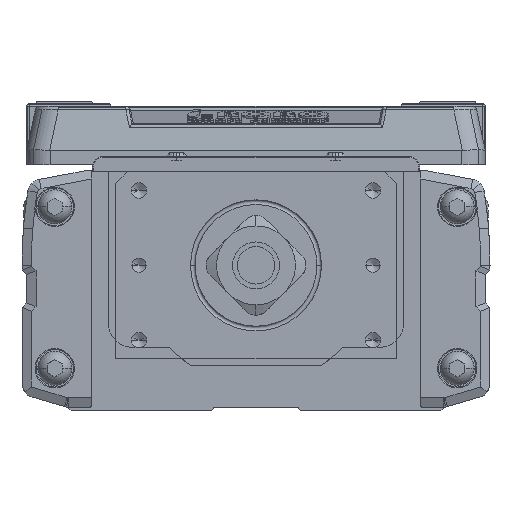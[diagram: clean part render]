
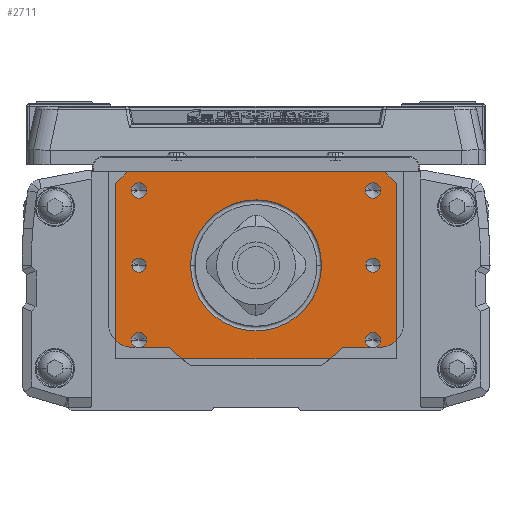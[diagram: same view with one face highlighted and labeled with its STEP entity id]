
A CAD part, left-side view. The second image highlights one B-rep face of the part: STEP entity #2711.
In plain terms, the highlighted planar face has unit normal (-1, 0, 0).
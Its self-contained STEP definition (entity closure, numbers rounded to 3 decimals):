
#2711=ADVANCED_FACE('',(#6899,#6900,#6901,#6902,#6903,#6904,#6905,#6906),#6907,.T.);
#6899=FACE_BOUND('',#12892,.T.);
#6900=FACE_BOUND('',#12893,.T.);
#6901=FACE_BOUND('',#12894,.T.);
#6902=FACE_BOUND('',#12895,.T.);
#6903=FACE_BOUND('',#12896,.T.);
#6904=FACE_BOUND('',#12897,.T.);
#6905=FACE_BOUND('',#12898,.T.);
#6906=FACE_OUTER_BOUND('',#12899,.T.);
#6907=PLANE('',#12900);
#12892=EDGE_LOOP('',(#20859,#20860));
#12893=EDGE_LOOP('',(#20861,#20862));
#12894=EDGE_LOOP('',(#20863,#20864));
#12895=EDGE_LOOP('',(#20865,#20866));
#12896=EDGE_LOOP('',(#20867,#20868));
#12897=EDGE_LOOP('',(#20869,#20870));
#12898=EDGE_LOOP('',(#20871,#20872,#20873));
#12899=EDGE_LOOP('',(#20874,#20875,#20876,#20877,#20878,#20879));
#12900=AXIS2_PLACEMENT_3D('',#20880,#20881,#20882);
#20859=ORIENTED_EDGE('',*,*,#36876,.T.);
#20860=ORIENTED_EDGE('',*,*,#36877,.T.);
#20861=ORIENTED_EDGE('',*,*,#36878,.T.);
#20862=ORIENTED_EDGE('',*,*,#35425,.T.);
#20863=ORIENTED_EDGE('',*,*,#36879,.T.);
#20864=ORIENTED_EDGE('',*,*,#36880,.T.);
#20865=ORIENTED_EDGE('',*,*,#36881,.T.);
#20866=ORIENTED_EDGE('',*,*,#36882,.T.);
#20867=ORIENTED_EDGE('',*,*,#36883,.T.);
#20868=ORIENTED_EDGE('',*,*,#36884,.T.);
#20869=ORIENTED_EDGE('',*,*,#36885,.T.);
#20870=ORIENTED_EDGE('',*,*,#36886,.T.);
#20871=ORIENTED_EDGE('',*,*,#36887,.T.);
#20872=ORIENTED_EDGE('',*,*,#36888,.T.);
#20873=ORIENTED_EDGE('',*,*,#36889,.T.);
#20874=ORIENTED_EDGE('',*,*,#36314,.F.);
#20875=ORIENTED_EDGE('',*,*,#36890,.F.);
#20876=ORIENTED_EDGE('',*,*,#36891,.T.);
#20877=ORIENTED_EDGE('',*,*,#36892,.T.);
#20878=ORIENTED_EDGE('',*,*,#36893,.F.);
#20879=ORIENTED_EDGE('',*,*,#36894,.T.);
#20880=CARTESIAN_POINT('',(-580.,0.,-20.));
#20881=DIRECTION('',(-1.0,0.,0.));
#20882=DIRECTION('',(0.,-1.0,0.));
#35425=EDGE_CURVE('',#42260,#42257,#42261,.T.);
#36314=EDGE_CURVE('',#43860,#43862,#43863,.T.);
#36876=EDGE_CURVE('',#44838,#44839,#44840,.T.);
#36877=EDGE_CURVE('',#44839,#44838,#44841,.T.);
#36878=EDGE_CURVE('',#42257,#42260,#44842,.T.);
#36879=EDGE_CURVE('',#44843,#44844,#44845,.T.);
#36880=EDGE_CURVE('',#44844,#44843,#44846,.T.);
#36881=EDGE_CURVE('',#44847,#44848,#44849,.T.);
#36882=EDGE_CURVE('',#44848,#44847,#44850,.T.);
#36883=EDGE_CURVE('',#44851,#44852,#44853,.T.);
#36884=EDGE_CURVE('',#44852,#44851,#44854,.T.);
#36885=EDGE_CURVE('',#44855,#44856,#44857,.T.);
#36886=EDGE_CURVE('',#44856,#44855,#44858,.T.);
#36887=EDGE_CURVE('',#44859,#44860,#44861,.T.);
#36888=EDGE_CURVE('',#44860,#44862,#44863,.T.);
#36889=EDGE_CURVE('',#44862,#44859,#44864,.T.);
#36890=EDGE_CURVE('',#44865,#43860,#44866,.T.);
#36891=EDGE_CURVE('',#44865,#44867,#44868,.T.);
#36892=EDGE_CURVE('',#44867,#44869,#44870,.T.);
#36893=EDGE_CURVE('',#44871,#44869,#44872,.T.);
#36894=EDGE_CURVE('',#44871,#43862,#44873,.T.);
#42257=VERTEX_POINT('',#52143);
#42260=VERTEX_POINT('',#52147);
#42261=CIRCLE('',#52148,1.5);
#43860=VERTEX_POINT('',#54347);
#43862=VERTEX_POINT('',#54350);
#43863=LINE('',#54351,#54352);
#44838=VERTEX_POINT('',#55681);
#44839=VERTEX_POINT('',#55682);
#44840=CIRCLE('',#55683,1.5);
#44841=CIRCLE('',#55684,1.5);
#44842=CIRCLE('',#55685,1.5);
#44843=VERTEX_POINT('',#55686);
#44844=VERTEX_POINT('',#55687);
#44845=CIRCLE('',#55688,1.65);
#44846=CIRCLE('',#55689,1.65);
#44847=VERTEX_POINT('',#55690);
#44848=VERTEX_POINT('',#55691);
#44849=CIRCLE('',#55692,1.65);
#44850=CIRCLE('',#55693,1.65);
#44851=VERTEX_POINT('',#55694);
#44852=VERTEX_POINT('',#55695);
#44853=CIRCLE('',#55696,1.65);
#44854=CIRCLE('',#55697,1.65);
#44855=VERTEX_POINT('',#55698);
#44856=VERTEX_POINT('',#55699);
#44857=CIRCLE('',#55700,1.65);
#44858=CIRCLE('',#55701,1.65);
#44859=VERTEX_POINT('',#55702);
#44860=VERTEX_POINT('',#55703);
#44861=CIRCLE('',#55704,14.0);
#44862=VERTEX_POINT('',#55705);
#44863=CIRCLE('',#55706,14.0);
#44864=CIRCLE('',#55707,14.0);
#44865=VERTEX_POINT('',#55708);
#44866=LINE('',#55709,#55710);
#44867=VERTEX_POINT('',#55711);
#44868=LINE('',#55712,#55713);
#44869=VERTEX_POINT('',#55714);
#44870=LINE('',#55715,#55716);
#44871=VERTEX_POINT('',#55717);
#44872=LINE('',#55718,#55719);
#44873=LINE('',#55720,#55721);
#52143=CARTESIAN_POINT('',(-580.,26.5,0.));
#52147=CARTESIAN_POINT('',(-580.,23.5,0.));
#52148=AXIS2_PLACEMENT_3D('',#65624,#65625,#65626);
#54347=CARTESIAN_POINT('',(-580.,30.,17.5));
#54350=CARTESIAN_POINT('',(-580.,27.5,20.));
#54351=CARTESIAN_POINT('',(-580.,31.25,16.25));
#54352=VECTOR('',#66899,10.);
#55681=CARTESIAN_POINT('',(-580.,-26.5,0.));
#55682=CARTESIAN_POINT('',(-580.,-23.5,0.));
#55683=AXIS2_PLACEMENT_3D('',#67739,#67740,#67741);
#55684=AXIS2_PLACEMENT_3D('',#67742,#67743,#67744);
#55685=AXIS2_PLACEMENT_3D('',#67745,#67746,#67747);
#55686=CARTESIAN_POINT('',(-580.,-26.65,-16.));
#55687=CARTESIAN_POINT('',(-580.,-23.35,-16.));
#55688=AXIS2_PLACEMENT_3D('',#67748,#67749,#67750);
#55689=AXIS2_PLACEMENT_3D('',#67751,#67752,#67753);
#55690=CARTESIAN_POINT('',(-580.,26.65,-16.));
#55691=CARTESIAN_POINT('',(-580.,23.35,-16.));
#55692=AXIS2_PLACEMENT_3D('',#67754,#67755,#67756);
#55693=AXIS2_PLACEMENT_3D('',#67757,#67758,#67759);
#55694=CARTESIAN_POINT('',(-580.,26.65,16.));
#55695=CARTESIAN_POINT('',(-580.,23.35,16.));
#55696=AXIS2_PLACEMENT_3D('',#67760,#67761,#67762);
#55697=AXIS2_PLACEMENT_3D('',#67763,#67764,#67765);
#55698=CARTESIAN_POINT('',(-580.,-26.65,16.));
#55699=CARTESIAN_POINT('',(-580.,-23.35,16.));
#55700=AXIS2_PLACEMENT_3D('',#67766,#67767,#67768);
#55701=AXIS2_PLACEMENT_3D('',#67769,#67770,#67771);
#55702=CARTESIAN_POINT('',(-580.,0.,-14.));
#55703=CARTESIAN_POINT('',(-580.,14.,0.));
#55704=AXIS2_PLACEMENT_3D('',#67772,#67773,#67774);
#55705=CARTESIAN_POINT('',(-580.,-14.,0.));
#55706=AXIS2_PLACEMENT_3D('',#67775,#67776,#67777);
#55707=AXIS2_PLACEMENT_3D('',#67778,#67779,#67780);
#55708=CARTESIAN_POINT('',(-580.,30.,-20.));
#55709=CARTESIAN_POINT('',(-580.,30.,-20.));
#55710=VECTOR('',#67781,10.0);
#55711=CARTESIAN_POINT('',(-580.,-30.,-20.));
#55712=CARTESIAN_POINT('',(-580.,30.,-20.));
#55713=VECTOR('',#67782,10.0);
#55714=CARTESIAN_POINT('',(-580.,-30.,17.5));
#55715=CARTESIAN_POINT('',(-580.,-30.,-20.));
#55716=VECTOR('',#67783,10.0);
#55717=CARTESIAN_POINT('',(-580.,-27.5,20.));
#55718=CARTESIAN_POINT('',(-580.,-31.25,16.25));
#55719=VECTOR('',#67784,10.);
#55720=CARTESIAN_POINT('',(-580.,30.,20.));
#55721=VECTOR('',#67785,10.0);
#65624=CARTESIAN_POINT('',(-580.,25.,0.));
#65625=DIRECTION('',(1.0,0.,0.));
#65626=DIRECTION('',(0.,1.0,0.));
#66899=DIRECTION('',(0.,-0.707,0.707));
#67739=CARTESIAN_POINT('',(-580.,-25.,0.));
#67740=DIRECTION('',(1.0,0.,0.));
#67741=DIRECTION('',(0.,-1.0,0.));
#67742=CARTESIAN_POINT('',(-580.,-25.,0.));
#67743=DIRECTION('',(1.0,0.,0.));
#67744=DIRECTION('',(0.,-1.0,0.));
#67745=CARTESIAN_POINT('',(-580.,25.,0.));
#67746=DIRECTION('',(1.0,0.,0.));
#67747=DIRECTION('',(0.,1.0,0.));
#67748=CARTESIAN_POINT('',(-580.,-25.,-16.));
#67749=DIRECTION('',(1.0,0.,0.));
#67750=DIRECTION('',(0.,-1.0,0.));
#67751=CARTESIAN_POINT('',(-580.,-25.,-16.));
#67752=DIRECTION('',(1.0,0.,0.));
#67753=DIRECTION('',(0.,-1.0,0.));
#67754=CARTESIAN_POINT('',(-580.,25.,-16.));
#67755=DIRECTION('',(1.0,0.,0.));
#67756=DIRECTION('',(0.,1.0,0.));
#67757=CARTESIAN_POINT('',(-580.,25.,-16.));
#67758=DIRECTION('',(1.0,0.,0.));
#67759=DIRECTION('',(0.,1.0,0.));
#67760=CARTESIAN_POINT('',(-580.,25.,16.));
#67761=DIRECTION('',(1.0,0.,0.));
#67762=DIRECTION('',(0.,1.0,0.));
#67763=CARTESIAN_POINT('',(-580.,25.,16.));
#67764=DIRECTION('',(1.0,0.,0.));
#67765=DIRECTION('',(0.,1.0,0.));
#67766=CARTESIAN_POINT('',(-580.,-25.,16.));
#67767=DIRECTION('',(1.0,0.,0.));
#67768=DIRECTION('',(0.,-1.0,0.));
#67769=CARTESIAN_POINT('',(-580.,-25.,16.));
#67770=DIRECTION('',(1.0,0.,0.));
#67771=DIRECTION('',(0.,-1.0,0.));
#67772=CARTESIAN_POINT('',(-580.,0.,0.));
#67773=DIRECTION('',(1.0,0.,0.));
#67774=DIRECTION('',(0.,0.,1.0));
#67775=CARTESIAN_POINT('',(-580.,0.,0.));
#67776=DIRECTION('',(1.0,0.,0.));
#67777=DIRECTION('',(0.,0.,1.0));
#67778=CARTESIAN_POINT('',(-580.,0.,0.));
#67779=DIRECTION('',(1.0,0.,0.));
#67780=DIRECTION('',(0.,0.,1.0));
#67781=DIRECTION('',(0.,0.,1.0));
#67782=DIRECTION('',(0.,-1.0,0.));
#67783=DIRECTION('',(0.,0.,1.0));
#67784=DIRECTION('',(0.0,-0.707,-0.707));
#67785=DIRECTION('',(0.,1.0,0.));
